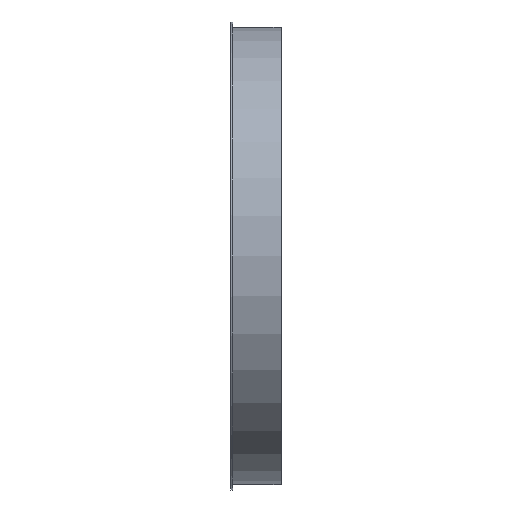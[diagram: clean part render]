
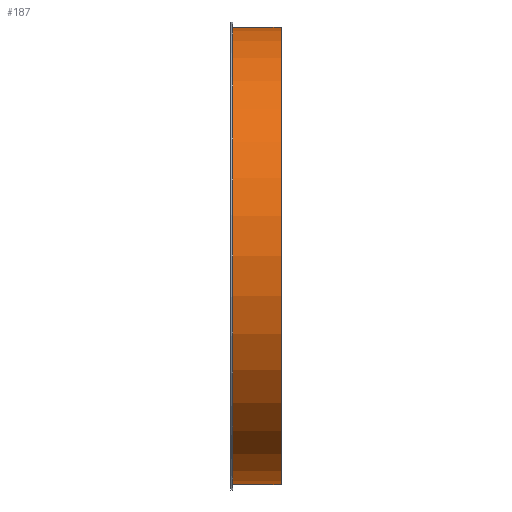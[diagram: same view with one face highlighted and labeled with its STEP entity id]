
A CAD part, front view. The second image highlights one B-rep face of the part: STEP entity #187.
In plain terms, the highlighted cylindrical face has radius 251 mm (diameter 502 mm), a full revolution.
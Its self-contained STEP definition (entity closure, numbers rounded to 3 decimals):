
#112=CARTESIAN_POINT('',(-15.,0.,0.0));
#113=VERTEX_POINT('',#112);
#114=CARTESIAN_POINT('',(-15.,251.0,0.0));
#115=DIRECTION('',(-1.0,0.0,0.0));
#116=DIRECTION('',(0.0,-1.0,0.0));
#117=AXIS2_PLACEMENT_3D('',#114,#115,#116);
#118=CIRCLE('',#117,251.0);
#119=EDGE_CURVE('',#113,#113,#118,.T.);
#161=CARTESIAN_POINT('',(38.0,0.,0.0));
#162=VERTEX_POINT('',#161);
#163=CARTESIAN_POINT('',(38.0,251.0,0.0));
#164=DIRECTION('',(-1.0,0.0,0.0));
#165=DIRECTION('',(0.0,-1.0,0.0));
#166=AXIS2_PLACEMENT_3D('',#163,#164,#165);
#167=CIRCLE('',#166,251.0);
#168=EDGE_CURVE('',#162,#162,#167,.T.);
#176=CARTESIAN_POINT('',(11.5,251.0,0.0));
#177=DIRECTION('',(-1.0,0.0,0.0));
#178=DIRECTION('',(0.0,-1.0,0.0));
#179=AXIS2_PLACEMENT_3D('',#176,#177,#178);
#180=CYLINDRICAL_SURFACE('',#179,251.0);
#181=ORIENTED_EDGE('',*,*,#119,.F.);
#182=EDGE_LOOP('',(#181));
#183=FACE_OUTER_BOUND('',#182,.T.);
#184=ORIENTED_EDGE('',*,*,#168,.T.);
#185=EDGE_LOOP('',(#184));
#186=FACE_BOUND('',#185,.T.);
#187=ADVANCED_FACE('',(#183,#186),#180,.T.);
